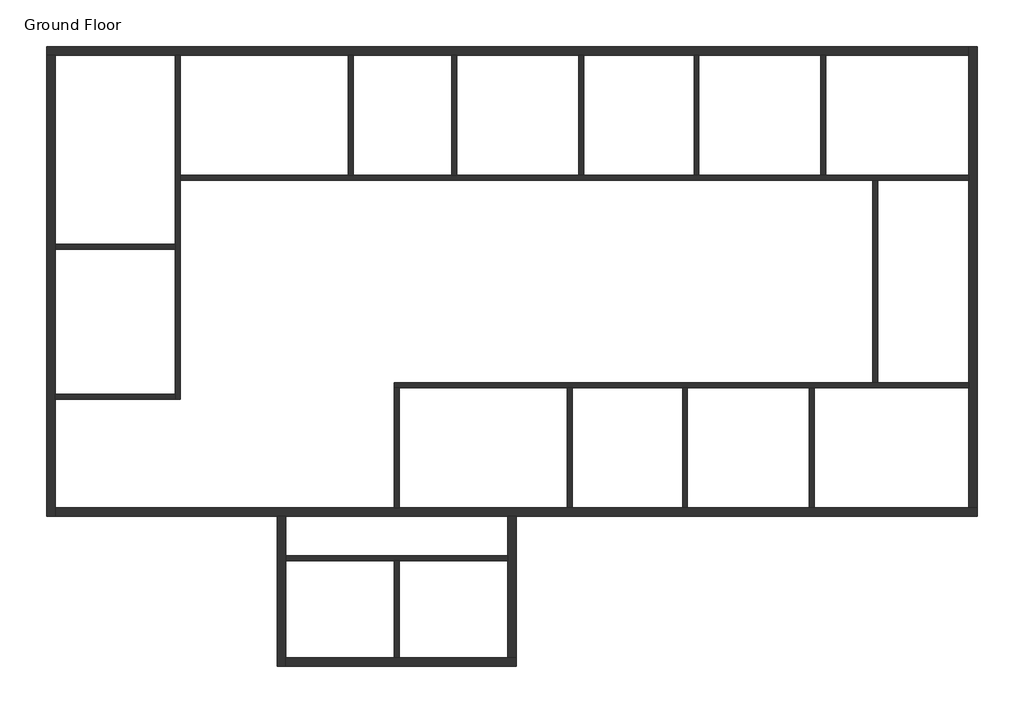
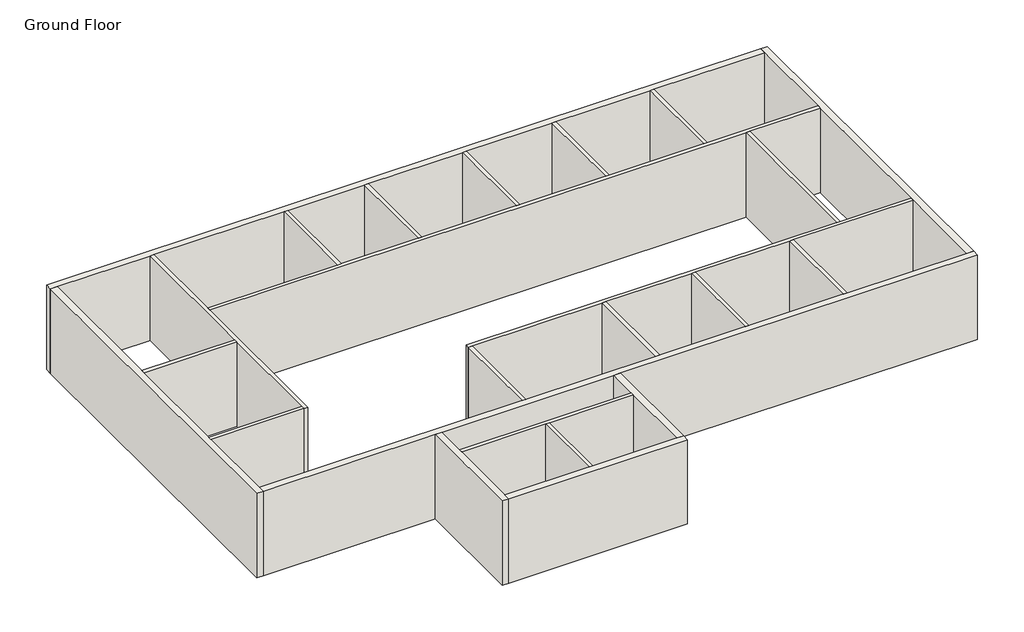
# One storey: 24 walls.
"""IFC4 building model written with IfcOpenShell, lengths in millimetres."""

from ifc_helpers import new_model, si_unit, origin, origin_with_axes, place, context, project, spatial, polyline, outline, extrude, faceted_brep, element, save

model = new_model("IFC4")

# Units and contexts
model_context = context("Model", 3, world=origin())
ifc_project = project(units=[si_unit("LENGTHUNIT", "METRE", prefix="MILLI")], contexts=[model_context])

# Site, building, storey
site = spatial("IfcSite", under=ifc_project)
building = spatial("IfcBuilding", under=site)
storey = spatial("IfcBuildingStorey", under=building, Name="Ground Floor", Elevation=0.0)

# Walls
placement = place(None, origin())
element("IfcWall", 1, ObjectType="Generic - 5\"", at=placement, inside=storey, context=model_context, shape_type="Brep", body=[
    faceted_brep([(-14512.0393951, 1330.4166817, 0.0), (-14512.0393951, -3673.3833183, 0.0), (-14512.0393951, -3800.3833183, 0.0), (-14512.0393951, -7635.7833183, 0.0), (-14512.0393951, -7762.7833183, 0.0), (-14512.0393951, -7762.7833183, 3048.0), (-14512.0393951, -7635.7833183, 3048.0), (-14512.0393951, -3800.3833183, 3048.0), (-14512.0393951, -3673.3833183, 3048.0), (-14512.0393951, 1330.4166817, 3048.0), (-14385.0393951, 1330.4166817, 0.0), (-14385.0393951, 1330.4166817, 3048.0), (-14385.0393951, -1844.5833183, 3048.0), (-14385.0393951, -1971.5833183, 3048.0), (-14385.0393951, -7762.7833183, 3048.0), (-14385.0393951, -7762.7833183, 0.0), (-14385.0393951, -1971.5833183, 0.0), (-14385.0393951, -1844.5833183, 0.0)], [[[0, 1, 2, 3, 4, 5, 6, 7, 8, 9]], [[10, 11, 12, 13, 14, 15, 16, 17]], [[4, 3, 2, 1, 0, 10, 17, 16, 15]], [[9, 8, 7, 6, 5, 14, 13, 12, 11]], [[0, 9, 11, 10]], [[5, 4, 15, 14]]]),
])
element("IfcWall", 2, ObjectType="Generic - 5\"", at=placement, inside=storey, context=model_context, shape_type="SweptSolid", body=[
    extrude(outline(polyline([(-17687.0393951, -7635.7833183), (-14512.0393951, -7635.7833183), (-14512.0393951, -7762.7833183), (-17687.0393951, -7762.7833183), (-17687.0393951, -7635.7833183)])), origin_with_axes(), (0.0, 0.0, 1.0), 3048.0),
])
element("IfcWall", 3, ObjectType="Generic - 5\"", at=placement, inside=storey, context=model_context, shape_type="Brep", body=[
    faceted_brep([(-14385.0393951, -1971.5833183, 0.0), (3928.3606049, -1971.5833183, 0.0), (4055.3606049, -1971.5833183, 0.0), (6468.3606049, -1971.5833183, 0.0), (6468.3606049, -1971.5833183, 3048.0), (4055.3606049, -1971.5833183, 3048.0), (3928.3606049, -1971.5833183, 3048.0), (-14385.0393951, -1971.5833183, 3048.0), (-14385.0393951, -1844.5833183, 0.0), (-14385.0393951, -1844.5833183, 3048.0), (-9940.0393951, -1844.5833183, 3048.0), (-9813.0393951, -1844.5833183, 3048.0), (-7196.8393951, -1844.5833183, 3048.0), (-7069.8393951, -1844.5833183, 3048.0), (-3844.0393951, -1844.5833183, 3048.0), (-3717.0393951, -1844.5833183, 3048.0), (-796.0393951, -1844.5833183, 3048.0), (-669.0393951, -1844.5833183, 3048.0), (2556.7606049, -1844.5833183, 3048.0), (2683.7606049, -1844.5833183, 3048.0), (6468.3606049, -1844.5833183, 3048.0), (6468.3606049, -1844.5833183, 0.0), (2683.7606049, -1844.5833183, 0.0), (2556.7606049, -1844.5833183, 0.0), (-669.0393951, -1844.5833183, 0.0), (-796.0393951, -1844.5833183, 0.0), (-3717.0393951, -1844.5833183, 0.0), (-3844.0393951, -1844.5833183, 0.0), (-7069.8393951, -1844.5833183, 0.0), (-7196.8393951, -1844.5833183, 0.0), (-9813.0393951, -1844.5833183, 0.0), (-9940.0393951, -1844.5833183, 0.0)], [[[0, 1, 2, 3, 4, 5, 6, 7]], [[8, 9, 10, 11, 12, 13, 14, 15, 16, 17, 18, 19, 20, 21, 22, 23, 24, 25, 26, 27, 28, 29, 30, 31]], [[3, 2, 1, 0, 8, 31, 30, 29, 28, 27, 26, 25, 24, 23, 22, 21]], [[7, 6, 5, 4, 20, 19, 18, 17, 16, 15, 14, 13, 12, 11, 10, 9]], [[4, 3, 21, 20]], [[0, 7, 9, 8]]]),
])
element("IfcWall", 4, ObjectType="Generic - 5\"", at=placement, inside=storey, context=model_context, shape_type="Brep", body=[
    faceted_brep([(6468.3606049, -7330.9833183, 0.0), (4055.3606049, -7330.9833183, 0.0), (3928.3606049, -7330.9833183, 0.0), (-8720.8393951, -7330.9833183, 0.0), (-8720.8393951, -7330.9833183, 3048.0), (3928.3606049, -7330.9833183, 3048.0), (4055.3606049, -7330.9833183, 3048.0), (6468.3606049, -7330.9833183, 3048.0), (6468.3606049, -7457.9833183, 0.0), (6468.3606049, -7457.9833183, 3048.0), (2378.9606049, -7457.9833183, 3048.0), (2251.9606049, -7457.9833183, 3048.0), (-973.8393951, -7457.9833183, 3048.0), (-1100.8393951, -7457.9833183, 3048.0), (-4021.8393951, -7457.9833183, 3048.0), (-4148.8393951, -7457.9833183, 3048.0), (-8593.8393951, -7457.9833183, 3048.0), (-8720.8393951, -7457.9833183, 3048.0), (-8720.8393951, -7457.9833183, 0.0), (-8593.8393951, -7457.9833183, 0.0), (-4148.8393951, -7457.9833183, 0.0), (-4021.8393951, -7457.9833183, 0.0), (-1100.8393951, -7457.9833183, 0.0), (-973.8393951, -7457.9833183, 0.0), (2251.9606049, -7457.9833183, 0.0), (2378.9606049, -7457.9833183, 0.0)], [[[0, 1, 2, 3, 4, 5, 6, 7]], [[8, 9, 10, 11, 12, 13, 14, 15, 16, 17, 18, 19, 20, 21, 22, 23, 24, 25]], [[3, 2, 1, 0, 8, 25, 24, 23, 22, 21, 20, 19, 18]], [[7, 6, 5, 4, 17, 16, 15, 14, 13, 12, 11, 10, 9]], [[0, 7, 9, 8]], [[4, 3, 18, 17]]]),
])
element("IfcWall", 5, ObjectType="Generic - 5\"", at=placement, inside=storey, context=model_context, shape_type="SweptSolid", body=[
    extrude(outline(polyline([(-8720.8393951, -10632.9833183), (-8720.8393951, -7457.9833183), (-8593.8393951, -7457.9833183), (-8593.8393951, -10632.9833183), (-8720.8393951, -10632.9833183)])), origin_with_axes(), (0.0, 0.0, 1.0), 3048.0),
])
element("IfcWall", 6, ObjectType="Generic - 5\"", at=placement, inside=storey, context=model_context, shape_type="SweptSolid", body=[
    extrude(outline(polyline([(-14512.0393951, -3800.3833183), (-17687.0393951, -3800.3833183), (-17687.0393951, -3673.3833183), (-14512.0393951, -3673.3833183), (-14512.0393951, -3800.3833183)])), origin_with_axes(), (0.0, 0.0, 1.0), 3048.0),
])
element("IfcWall", 7, ObjectType="Generic - 5\"", at=placement, inside=storey, context=model_context, shape_type="SweptSolid", body=[
    extrude(outline(polyline([(-9940.0393951, -1844.5833183), (-9940.0393951, 1330.4166817), (-9813.0393951, 1330.4166817), (-9813.0393951, -1844.5833183), (-9940.0393951, -1844.5833183)])), origin_with_axes(), (0.0, 0.0, 1.0), 3048.0),
])
element("IfcWall", 8, ObjectType="Generic - 5\"", at=placement, inside=storey, context=model_context, shape_type="SweptSolid", body=[
    extrude(outline(polyline([(-7196.8393951, -1844.5833183), (-7196.8393951, 1330.4166817), (-7069.8393951, 1330.4166817), (-7069.8393951, -1844.5833183), (-7196.8393951, -1844.5833183)])), origin_with_axes(), (0.0, 0.0, 1.0), 3048.0),
])
element("IfcWall", 9, ObjectType="Generic - 5\"", at=placement, inside=storey, context=model_context, shape_type="SweptSolid", body=[
    extrude(outline(polyline([(-3844.0393951, -1844.5833183), (-3844.0393951, 1330.4166817), (-3717.0393951, 1330.4166817), (-3717.0393951, -1844.5833183), (-3844.0393951, -1844.5833183)])), origin_with_axes(), (0.0, 0.0, 1.0), 3048.0),
])
element("IfcWall", 10, ObjectType="Generic - 5\"", at=placement, inside=storey, context=model_context, shape_type="SweptSolid", body=[
    extrude(outline(polyline([(-796.0393951, -1844.5833183), (-796.0393951, 1330.4166817), (-669.0393951, 1330.4166817), (-669.0393951, -1844.5833183), (-796.0393951, -1844.5833183)])), origin_with_axes(), (0.0, 0.0, 1.0), 3048.0),
])
element("IfcWall", 11, ObjectType="Generic - 5\"", at=placement, inside=storey, context=model_context, shape_type="SweptSolid", body=[
    extrude(outline(polyline([(2556.7606049, -1844.5833183), (2556.7606049, 1330.4166817), (2683.7606049, 1330.4166817), (2683.7606049, -1844.5833183), (2556.7606049, -1844.5833183)])), origin_with_axes(), (0.0, 0.0, 1.0), 3048.0),
])
element("IfcWall", 12, ObjectType="Generic - 5\"", at=placement, inside=storey, context=model_context, shape_type="SweptSolid", body=[
    extrude(outline(polyline([(4055.3606049, -1971.5833183), (4055.3606049, -7330.9833183), (3928.3606049, -7330.9833183), (3928.3606049, -1971.5833183), (4055.3606049, -1971.5833183)])), origin_with_axes(), (0.0, 0.0, 1.0), 3048.0),
])
element("IfcWall", 13, ObjectType="Generic - 5\"", at=placement, inside=storey, context=model_context, shape_type="SweptSolid", body=[
    extrude(outline(polyline([(2378.9606049, -7457.9833183), (2378.9606049, -10632.9833183), (2251.9606049, -10632.9833183), (2251.9606049, -7457.9833183), (2378.9606049, -7457.9833183)])), origin_with_axes(), (0.0, 0.0, 1.0), 3048.0),
])
element("IfcWall", 14, ObjectType="Generic - 5\"", at=placement, inside=storey, context=model_context, shape_type="SweptSolid", body=[
    extrude(outline(polyline([(-973.8393951, -7457.9833183), (-973.8393951, -10632.9833183), (-1100.8393951, -10632.9833183), (-1100.8393951, -7457.9833183), (-973.8393951, -7457.9833183)])), origin_with_axes(), (0.0, 0.0, 1.0), 3048.0),
])
element("IfcWall", 15, ObjectType="Generic - 5\"", at=placement, inside=storey, context=model_context, shape_type="SweptSolid", body=[
    extrude(outline(polyline([(-4021.8393951, -7457.9833183), (-4021.8393951, -10632.9833183), (-4148.8393951, -10632.9833183), (-4148.8393951, -7457.9833183), (-4021.8393951, -7457.9833183)])), origin_with_axes(), (0.0, 0.0, 1.0), 3048.0),
])
element("IfcWall", 16, ObjectType="Generic - 5\"", at=placement, inside=storey, context=model_context, shape_type="Brep", body=[
    faceted_brep([(-11591.0393951, -12029.9833183, 0.0), (-8720.8393951, -12029.9833183, 0.0), (-8593.8393951, -12029.9833183, 0.0), (-5723.6393951, -12029.9833183, 0.0), (-5723.6393951, -12029.9833183, 3048.0), (-8593.8393951, -12029.9833183, 3048.0), (-8720.8393951, -12029.9833183, 3048.0), (-11591.0393951, -12029.9833183, 3048.0), (-11591.0393951, -11902.9833183, 0.0), (-11591.0393951, -11902.9833183, 3048.0), (-5723.6393951, -11902.9833183, 3048.0), (-5723.6393951, -11902.9833183, 0.0)], [[[0, 1, 2, 3, 4, 5, 6, 7]], [[8, 9, 10, 11]], [[3, 2, 1, 0, 8, 11]], [[7, 6, 5, 4, 10, 9]], [[0, 7, 9, 8]], [[4, 3, 11, 10]]]),
])
element("IfcWall", 17, ObjectType="Generic - 5\"", at=placement, inside=storey, context=model_context, shape_type="SweptSolid", body=[
    extrude(outline(polyline([(-8720.8393951, -14595.3833183), (-8720.8393951, -12029.9833183), (-8593.8393951, -12029.9833183), (-8593.8393951, -14595.3833183), (-8720.8393951, -14595.3833183)])), origin_with_axes(), (0.0, 0.0, 1.0), 3048.0),
])
element("IfcWall", 18, ObjectType="Generic- 9\"", at=placement, inside=storey, context=model_context, shape_type="Brep", body=[
    faceted_brep([(-17915.6393951, 1330.4166817, 0.0), (-17687.0393951, 1330.4166817, 0.0), (-14512.0393951, 1330.4166817, 0.0), (-14385.0393951, 1330.4166817, 0.0), (-9940.0393951, 1330.4166817, 0.0), (-9813.0393951, 1330.4166817, 0.0), (-7196.8393951, 1330.4166817, 0.0), (-7069.8393951, 1330.4166817, 0.0), (-3844.0393951, 1330.4166817, 0.0), (-3717.0393951, 1330.4166817, 0.0), (-796.0393951, 1330.4166817, 0.0), (-669.0393951, 1330.4166817, 0.0), (2556.7606049, 1330.4166817, 0.0), (2683.7606049, 1330.4166817, 0.0), (6468.3606049, 1330.4166817, 0.0), (6468.3606049, 1330.4166817, 3048.0), (2683.7606049, 1330.4166817, 3048.0), (2556.7606049, 1330.4166817, 3048.0), (-669.0393951, 1330.4166817, 3048.0), (-796.0393951, 1330.4166817, 3048.0), (-3717.0393951, 1330.4166817, 3048.0), (-3844.0393951, 1330.4166817, 3048.0), (-7069.8393951, 1330.4166817, 3048.0), (-7196.8393951, 1330.4166817, 3048.0), (-9813.0393951, 1330.4166817, 3048.0), (-9940.0393951, 1330.4166817, 3048.0), (-14385.0393951, 1330.4166817, 3048.0), (-14512.0393951, 1330.4166817, 3048.0), (-17687.0393951, 1330.4166817, 3048.0), (-17915.6393951, 1330.4166817, 3048.0), (-17915.6393951, 1559.0166817, 0.0), (-17915.6393951, 1559.0166817, 3048.0), (6468.3606049, 1559.0166817, 3048.0), (6468.3606049, 1559.0166817, 0.0)], [[[0, 1, 2, 3, 4, 5, 6, 7, 8, 9, 10, 11, 12, 13, 14, 15, 16, 17, 18, 19, 20, 21, 22, 23, 24, 25, 26, 27, 28, 29]], [[30, 31, 32, 33]], [[14, 13, 12, 11, 10, 9, 8, 7, 6, 5, 4, 3, 2, 1, 0, 30, 33]], [[29, 28, 27, 26, 25, 24, 23, 22, 21, 20, 19, 18, 17, 16, 15, 32, 31]], [[0, 29, 31, 30]], [[15, 14, 33, 32]]]),
])
element("IfcWall", 19, ObjectType="Generic- 9\"", at=placement, inside=storey, context=model_context, shape_type="Brep", body=[
    faceted_brep([(-17687.0393951, -10861.5833183, 0.0), (-17687.0393951, -10632.9833183, 0.0), (-17687.0393951, -7762.7833183, 0.0), (-17687.0393951, -7635.7833183, 0.0), (-17687.0393951, -3800.3833183, 0.0), (-17687.0393951, -3673.3833183, 0.0), (-17687.0393951, 1330.4166817, 0.0), (-17687.0393951, 1330.4166817, 3048.0), (-17687.0393951, -3673.3833183, 3048.0), (-17687.0393951, -3800.3833183, 3048.0), (-17687.0393951, -7635.7833183, 3048.0), (-17687.0393951, -7762.7833183, 3048.0), (-17687.0393951, -10632.9833183, 3048.0), (-17687.0393951, -10861.5833183, 3048.0), (-17915.6393951, -10861.5833183, 0.0), (-17915.6393951, -10861.5833183, 3048.0), (-17915.6393951, 1330.4166817, 3048.0), (-17915.6393951, 1330.4166817, 0.0)], [[[0, 1, 2, 3, 4, 5, 6, 7, 8, 9, 10, 11, 12, 13]], [[14, 15, 16, 17]], [[6, 5, 4, 3, 2, 1, 0, 14, 17]], [[13, 12, 11, 10, 9, 8, 7, 16, 15]], [[0, 13, 15, 14]], [[7, 6, 17, 16]]]),
])
element("IfcWall", 20, ObjectType="Generic- 9\"", at=placement, inside=storey, context=model_context, shape_type="Brep", body=[
    faceted_brep([(6696.9606049, -10632.9833183, 0.0), (6468.3606049, -10632.9833183, 0.0), (2378.9606049, -10632.9833183, 0.0), (2251.9606049, -10632.9833183, 0.0), (-973.8393951, -10632.9833183, 0.0), (-1100.8393951, -10632.9833183, 0.0), (-4021.8393951, -10632.9833183, 0.0), (-4148.8393951, -10632.9833183, 0.0), (-8593.8393951, -10632.9833183, 0.0), (-8720.8393951, -10632.9833183, 0.0), (-17687.0393951, -10632.9833183, 0.0), (-17687.0393951, -10632.9833183, 3048.0), (-8720.8393951, -10632.9833183, 3048.0), (-8593.8393951, -10632.9833183, 3048.0), (-4148.8393951, -10632.9833183, 3048.0), (-4021.8393951, -10632.9833183, 3048.0), (-1100.8393951, -10632.9833183, 3048.0), (-973.8393951, -10632.9833183, 3048.0), (2251.9606049, -10632.9833183, 3048.0), (2378.9606049, -10632.9833183, 3048.0), (6468.3606049, -10632.9833183, 3048.0), (6696.9606049, -10632.9833183, 3048.0), (6696.9606049, -10861.5833183, 0.0), (6696.9606049, -10861.5833183, 3048.0), (-5495.0393951, -10861.5833183, 3048.0), (-5723.6393951, -10861.5833183, 3048.0), (-11591.0393951, -10861.5833183, 3048.0), (-11819.6393951, -10861.5833183, 3048.0), (-17687.0393951, -10861.5833183, 3048.0), (-17687.0393951, -10861.5833183, 0.0), (-11819.6393951, -10861.5833183, 0.0), (-11591.0393951, -10861.5833183, 0.0), (-5723.6393951, -10861.5833183, 0.0), (-5495.0393951, -10861.5833183, 0.0)], [[[0, 1, 2, 3, 4, 5, 6, 7, 8, 9, 10, 11, 12, 13, 14, 15, 16, 17, 18, 19, 20, 21]], [[22, 23, 24, 25, 26, 27, 28, 29, 30, 31, 32, 33]], [[10, 9, 8, 7, 6, 5, 4, 3, 2, 1, 0, 22, 33, 32, 31, 30, 29]], [[21, 20, 19, 18, 17, 16, 15, 14, 13, 12, 11, 28, 27, 26, 25, 24, 23]], [[0, 21, 23, 22]], [[11, 10, 29, 28]]]),
])
element("IfcWall", 21, ObjectType="Generic- 9\"", at=placement, inside=storey, context=model_context, shape_type="Brep", body=[
    faceted_brep([(6468.3606049, 1559.0166817, 0.0), (6468.3606049, 1330.4166817, 0.0), (6468.3606049, -1844.5833183, 0.0), (6468.3606049, -1971.5833183, 0.0), (6468.3606049, -7330.9833183, 0.0), (6468.3606049, -7457.9833183, 0.0), (6468.3606049, -10632.9833183, 0.0), (6468.3606049, -10632.9833183, 3048.0), (6468.3606049, -7457.9833183, 3048.0), (6468.3606049, -7330.9833183, 3048.0), (6468.3606049, -1971.5833183, 3048.0), (6468.3606049, -1844.5833183, 3048.0), (6468.3606049, 1330.4166817, 3048.0), (6468.3606049, 1559.0166817, 3048.0), (6696.9606049, 1559.0166817, 0.0), (6696.9606049, 1559.0166817, 3048.0), (6696.9606049, -10632.9833183, 3048.0), (6696.9606049, -10632.9833183, 0.0)], [[[0, 1, 2, 3, 4, 5, 6, 7, 8, 9, 10, 11, 12, 13]], [[14, 15, 16, 17]], [[6, 5, 4, 3, 2, 1, 0, 14, 17]], [[13, 12, 11, 10, 9, 8, 7, 16, 15]], [[0, 13, 15, 14]], [[7, 6, 17, 16]]]),
])
element("IfcWall", 22, ObjectType="Generic- 9\"", at=placement, inside=storey, context=model_context, shape_type="Brep", body=[
    faceted_brep([(-11819.6393951, -10861.5833183, 0.0), (-11819.6393951, -14823.9833183, 0.0), (-11819.6393951, -14823.9833183, 3048.0), (-11819.6393951, -10861.5833183, 3048.0), (-11591.0393951, -10861.5833183, 0.0), (-11591.0393951, -10861.5833183, 3048.0), (-11591.0393951, -11902.9833183, 3048.0), (-11591.0393951, -12029.9833183, 3048.0), (-11591.0393951, -14595.3833183, 3048.0), (-11591.0393951, -14823.9833183, 3048.0), (-11591.0393951, -14823.9833183, 0.0), (-11591.0393951, -14595.3833183, 0.0), (-11591.0393951, -12029.9833183, 0.0), (-11591.0393951, -11902.9833183, 0.0)], [[[0, 1, 2, 3]], [[4, 5, 6, 7, 8, 9, 10, 11, 12, 13]], [[1, 0, 4, 13, 12, 11, 10]], [[3, 2, 9, 8, 7, 6, 5]], [[0, 3, 5, 4]], [[2, 1, 10, 9]]]),
])
element("IfcWall", 23, ObjectType="Generic- 9\"", at=placement, inside=storey, context=model_context, shape_type="Brep", body=[
    faceted_brep([(-11591.0393951, -14823.9833183, 0.0), (-5495.0393951, -14823.9833183, 0.0), (-5495.0393951, -14823.9833183, 3048.0), (-11591.0393951, -14823.9833183, 3048.0), (-11591.0393951, -14595.3833183, 0.0), (-11591.0393951, -14595.3833183, 3048.0), (-8720.8393951, -14595.3833183, 3048.0), (-8593.8393951, -14595.3833183, 3048.0), (-5723.6393951, -14595.3833183, 3048.0), (-5495.0393951, -14595.3833183, 3048.0), (-5495.0393951, -14595.3833183, 0.0), (-5723.6393951, -14595.3833183, 0.0), (-8593.8393951, -14595.3833183, 0.0), (-8720.8393951, -14595.3833183, 0.0)], [[[0, 1, 2, 3]], [[4, 5, 6, 7, 8, 9, 10, 11, 12, 13]], [[1, 0, 4, 13, 12, 11, 10]], [[3, 2, 9, 8, 7, 6, 5]], [[0, 3, 5, 4]], [[2, 1, 10, 9]]]),
])
element("IfcWall", 24, ObjectType="Generic- 9\"", at=placement, inside=storey, context=model_context, shape_type="Brep", body=[
    faceted_brep([(-5495.0393951, -14595.3833183, 0.0), (-5495.0393951, -10861.5833183, 0.0), (-5495.0393951, -10861.5833183, 3048.0), (-5495.0393951, -14595.3833183, 3048.0), (-5723.6393951, -14595.3833183, 0.0), (-5723.6393951, -14595.3833183, 3048.0), (-5723.6393951, -12029.9833183, 3048.0), (-5723.6393951, -11902.9833183, 3048.0), (-5723.6393951, -10861.5833183, 3048.0), (-5723.6393951, -10861.5833183, 0.0), (-5723.6393951, -11902.9833183, 0.0), (-5723.6393951, -12029.9833183, 0.0)], [[[0, 1, 2, 3]], [[4, 5, 6, 7, 8, 9, 10, 11]], [[1, 0, 4, 11, 10, 9]], [[3, 2, 8, 7, 6, 5]], [[0, 3, 5, 4]], [[2, 1, 9, 8]]]),
])

save(model, "model.ifc")
